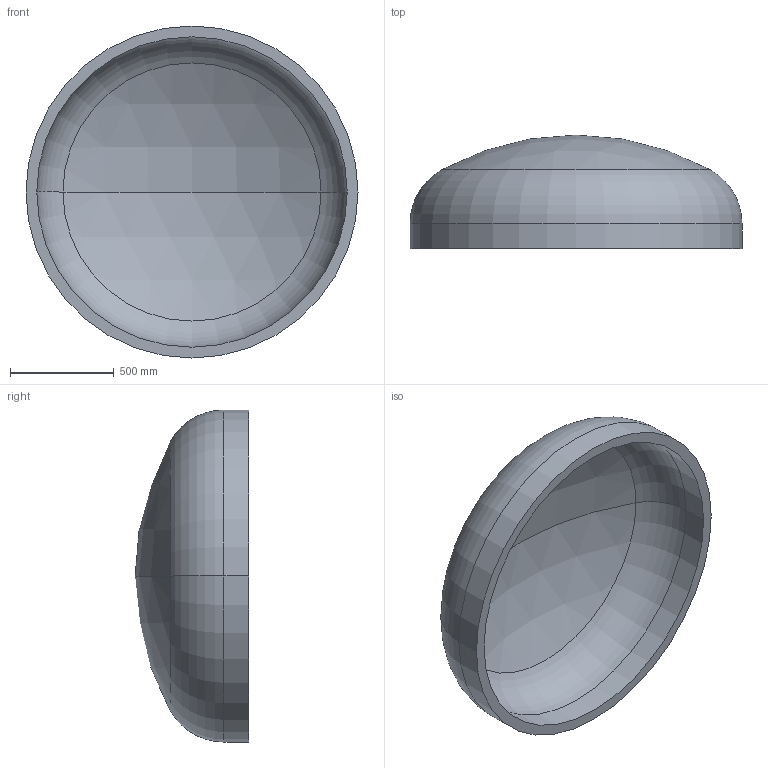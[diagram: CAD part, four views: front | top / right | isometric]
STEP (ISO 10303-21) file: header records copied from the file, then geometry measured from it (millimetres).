
FILE_DESCRIPTION (( 'STEP AP203' ), '1' );
FILE_NAME ('DIN 28013 Korbbogenform_-_Boden DIN 28013 - 1600 x 120 - I - s=52.step', '2016-07-01T11:20:14', ( '' ), ( '' ), 'SwSTEP 2.0', 'SolidWorks 2013', '' );
FILE_SCHEMA (( 'CONFIG_CONTROL_DESIGN' ));
Length unit declared in the file: millimetre
Products named in the file (1): DIN 28013 Korbbogenform_-_Boden DIN 28013 - 1600 x 120 - I - s=52
Bounding box: 1600 x 547.45 x 1600 mm (x, y, z)
Volume: 168983427.2 mm3; surface area: 6757909.6 mm2
Topology: 1 solids, 1 shells, 13 faces, 24 edges, 14 vertices
Faces by surface type: torus 4, cylinder 4, sphere 4, plane 1
Entity records: 407 total; most frequent: DIRECTION 72, CARTESIAN_POINT 52, ORIENTED_EDGE 48, AXIS2_PLACEMENT_3D 34, EDGE_CURVE 24, CIRCLE 20, EDGE_LOOP 14, VERTEX_POINT 14
